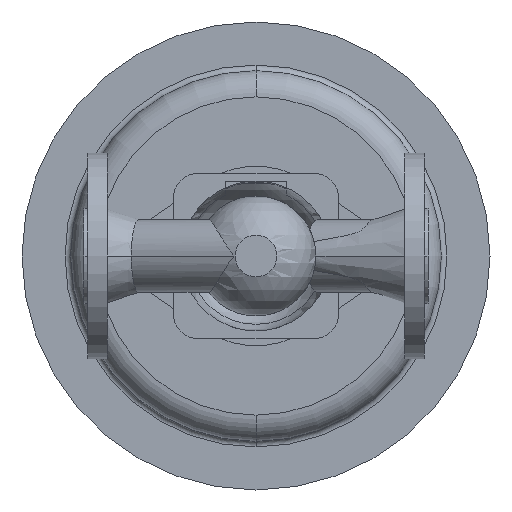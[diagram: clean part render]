
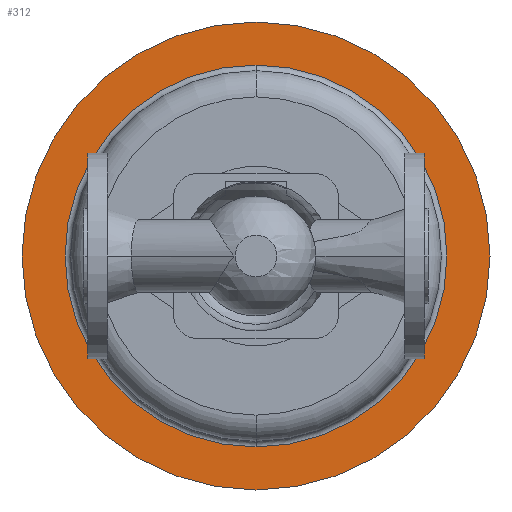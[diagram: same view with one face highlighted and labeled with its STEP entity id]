
A CAD part, front view. The second image highlights one B-rep face of the part: STEP entity #312.
In plain terms, the highlighted planar face has unit normal (0, -1, 0).
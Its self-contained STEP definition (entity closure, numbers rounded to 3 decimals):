
#312 = ADVANCED_FACE( '', ( #740, #741 ), #742, .T. );
#740 = FACE_OUTER_BOUND( '', #1177, .T. );
#741 = FACE_BOUND( '', #1178, .T. );
#742 = PLANE( '', #1179 );
#1177 = EDGE_LOOP( '', ( #2723, #2724 ) );
#1178 = EDGE_LOOP( '', ( #2725, #2726, #2727 ) );
#1179 = AXIS2_PLACEMENT_3D( '', #2728, #2729, #2730 );
#2723 = ORIENTED_EDGE( '', *, *, #3101, .F. );
#2724 = ORIENTED_EDGE( '', *, *, #3272, .F. );
#2725 = ORIENTED_EDGE( '', *, *, #3270, .T. );
#2726 = ORIENTED_EDGE( '', *, *, #3108, .T. );
#2727 = ORIENTED_EDGE( '', *, *, #3271, .T. );
#2728 = CARTESIAN_POINT( '', ( 205.5, 405.5, 0. ) );
#2729 = DIRECTION( '', ( 0., -1., 0. ) );
#2730 = DIRECTION( '', ( -1., 0., 0. ) );
#3101 = EDGE_CURVE( '', #3817, #3820, #3821, .T. );
#3108 = EDGE_CURVE( '', #3826, #3832, #3834, .T. );
#3270 = EDGE_CURVE( '', #4103, #3826, #4104, .T. );
#3271 = EDGE_CURVE( '', #3832, #4103, #4105, .T. );
#3272 = EDGE_CURVE( '', #3820, #3817, #4106, .T. );
#3817 = VERTEX_POINT( '', #5671 );
#3820 = VERTEX_POINT( '', #5675 );
#3821 = CIRCLE( '', #5676, 125. );
#3826 = VERTEX_POINT( '', #5682 );
#3832 = VERTEX_POINT( '', #5688 );
#3834 = CIRCLE( '', #5690, 102. );
#4103 = VERTEX_POINT( '', #6028 );
#4104 = CIRCLE( '', #6029, 102. );
#4105 = CIRCLE( '', #6030, 102. );
#4106 = CIRCLE( '', #6031, 125. );
#5671 = CARTESIAN_POINT( '', ( 217., 405.5, 0. ) );
#5675 = CARTESIAN_POINT( '', ( -33., 405.5, 0. ) );
#5676 = AXIS2_PLACEMENT_3D( '', #6642, #6643, #6644 );
#5682 = CARTESIAN_POINT( '', ( 92., 405.5, -102. ) );
#5688 = CARTESIAN_POINT( '', ( 92., 405.5, 102. ) );
#5690 = AXIS2_PLACEMENT_3D( '', #6661, #6662, #6663 );
#6028 = CARTESIAN_POINT( '', ( 194., 405.5, 0. ) );
#6029 = AXIS2_PLACEMENT_3D( '', #7009, #7010, #7011 );
#6030 = AXIS2_PLACEMENT_3D( '', #7012, #7013, #7014 );
#6031 = AXIS2_PLACEMENT_3D( '', #7015, #7016, #7017 );
#6642 = CARTESIAN_POINT( '', ( 92., 405.5, 0. ) );
#6643 = DIRECTION( '', ( 0., 1., 0. ) );
#6644 = DIRECTION( '', ( 1., 0., 0. ) );
#6661 = CARTESIAN_POINT( '', ( 92., 405.5, 0. ) );
#6662 = DIRECTION( '', ( 0., 1., 0. ) );
#6663 = DIRECTION( '', ( 1., 0., 0. ) );
#7009 = CARTESIAN_POINT( '', ( 92., 405.5, 0. ) );
#7010 = DIRECTION( '', ( 0., 1., 0. ) );
#7011 = DIRECTION( '', ( 1., 0., 0. ) );
#7012 = CARTESIAN_POINT( '', ( 92., 405.5, 0. ) );
#7013 = DIRECTION( '', ( 0., 1., 0. ) );
#7014 = DIRECTION( '', ( 1., 0., 0. ) );
#7015 = CARTESIAN_POINT( '', ( 92., 405.5, 0. ) );
#7016 = DIRECTION( '', ( 0., 1., 0. ) );
#7017 = DIRECTION( '', ( 1., 0., 0. ) );
